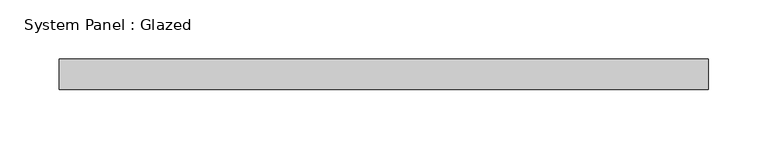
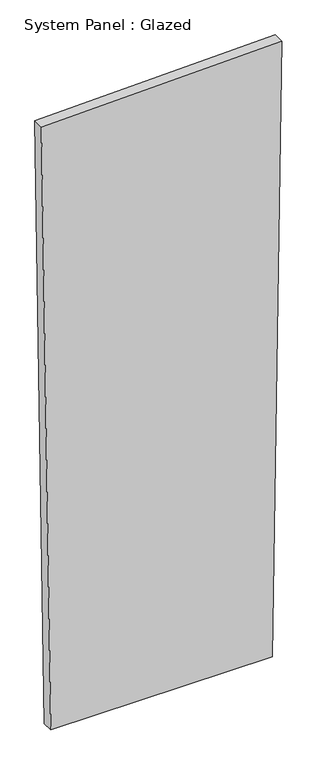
"""IFC4 building model written with IfcOpenShell, lengths in millimetres: plate geometry, System Panel : Glazed."""

from ifc_helpers import new_model, si_unit, frame, origin, place, context, project, spatial, polyline, outline, extrude, source, transform, mapped, element, save


def system_panel_glazed_9294455f(model_context):
    return source(origin(), model_context, "Body", "SweptSolid", [
        extrude(outline(polyline([(0.0, -252.1152337), (0.0, 252.1437927), (1473.195645, 273.4226507), (1457.7618312, -273.4226507), (0.0, -252.1152337)])), frame((0.0, -44.45, 0.0), z_axis=(0.0, 1.0, 0.0), x_axis=(0.0, 0.0, 1.0)), (0.0, 0.0, 1.0), 25.4),
    ])


if __name__ == "__main__":
    model = new_model("IFC4")
    model_context = context("Model", 3, world=origin())
    ifc_project = project(units=[si_unit("LENGTHUNIT", "METRE", prefix="MILLI")], contexts=[model_context])
    site = spatial("IfcSite", under=ifc_project)
    building = spatial("IfcBuilding", under=site)
    placement = place(None, origin())
    system_panel_glazed_shape = system_panel_glazed_9294455f(model_context)
    element("IfcPlate", 1, ObjectType="System Panel : Glazed", at=placement, inside=building, context=model_context, shape_type="MappedRepresentation", body=[
        mapped(system_panel_glazed_shape, transform((0.0, 0.0, 0.0), x_axis=(1.0, 0.0, 0.0), y_axis=(0.0, 1.0, 0.0), z_axis=(0.0, 0.0, 1.0))),
    ])
    save(model, "model.ifc")
